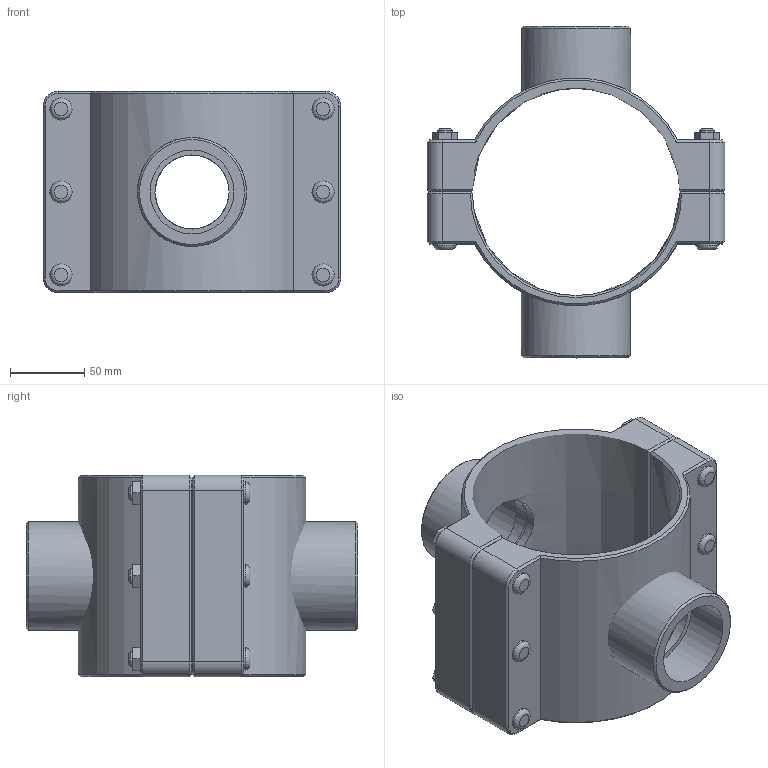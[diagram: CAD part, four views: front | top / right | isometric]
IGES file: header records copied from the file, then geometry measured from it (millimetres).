
Global section: file name: 161760140020_161860140020.ipt; native system: Autodesk Inventor 2015; preprocessor: unknown; author: KIM; date: 20170618.093803; units: millimetre
Bounding box: 201 x 224 x 136 mm (x, y, z)
Volume: 1061293.1 mm3; surface area: 204543.1 mm2
Topology: 3 solids, 3 shells, 179 faces, 416 edges, 265 vertices
Faces by surface type: plane 102, cylinder 30, cone 28, revolution 19
Full cylindrical faces by diameter (mm): 10 x6, 15 x12, 73.653 x2
